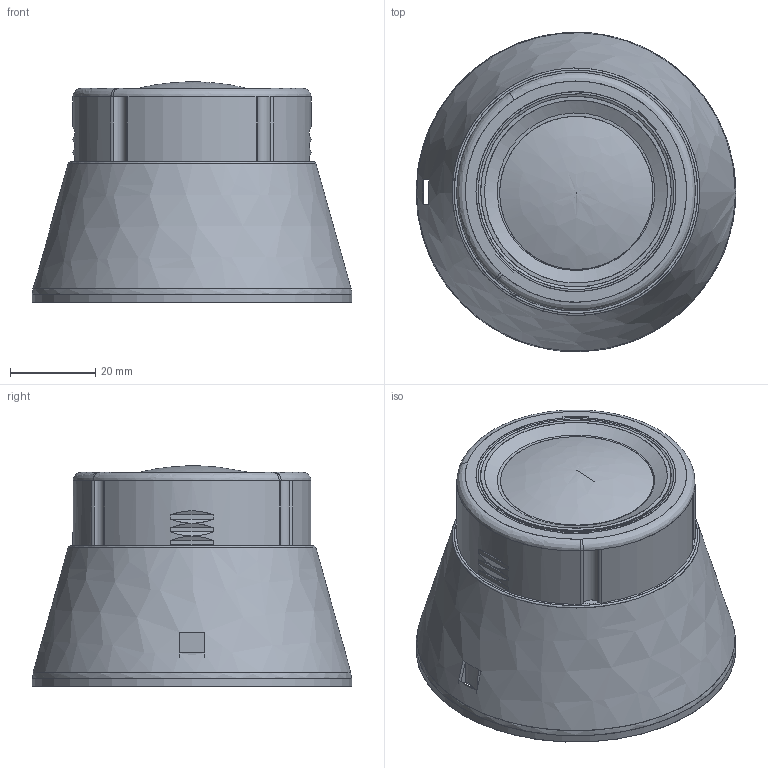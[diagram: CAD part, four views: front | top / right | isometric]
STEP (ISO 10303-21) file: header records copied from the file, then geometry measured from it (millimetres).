
FILE_DESCRIPTION(('STEP AP214'),'2;1');
FILE_NAME('1821_rev01.stp','2015-05-22T11:50:22',(''),(''),'2007.1.106','THINKDESIGN','');
FILE_SCHEMA(('AUTOMOTIVE_DESIGN'));
Length unit declared in the file: millimetre
Products named in the file (1): top
Bounding box: 75.12 x 75.12 x 51.78 mm (x, y, z)
Surface area: 38163.1 mm2 (no closed solid volume)
Topology: 0 solids, 0 shells, 482 faces, 3270 edges, 3260 vertices
Faces by surface type: plane 344, cylinder 108, bspline 30
Full cylindrical faces by diameter (mm): 4.2 x1, 5 x4, 44.8 x1, 47 x1, 75.123 x1
Entity records: 29011 total; most frequent: CARTESIAN_POINT 11255, DIRECTION 3822, COMPOSITE_CURVE_SEGMENT 3269, TRIMMED_CURVE 2642, VECTOR 2380, LINE 2380, AXIS2_PLACEMENT_3D 721, OUTER_BOUNDARY_CURVE 482
